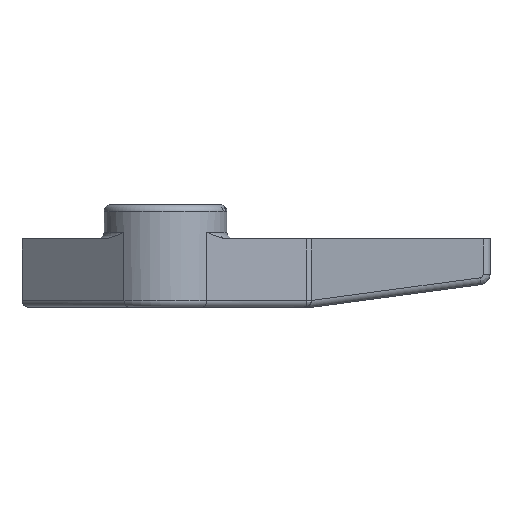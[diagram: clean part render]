
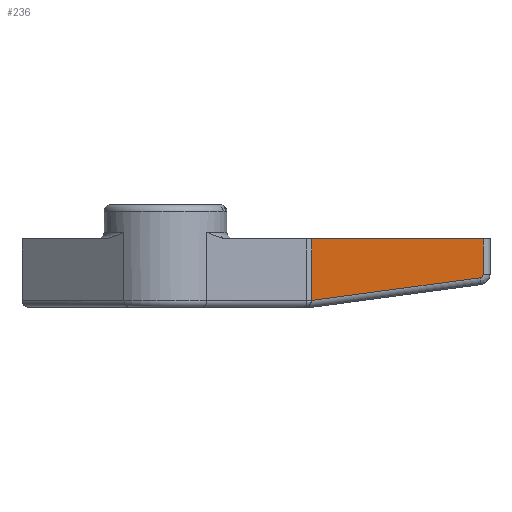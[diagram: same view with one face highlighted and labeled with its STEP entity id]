
A CAD part, left-side view. The second image highlights one B-rep face of the part: STEP entity #236.
In plain terms, the highlighted planar face has unit normal (-1, 0, 0).
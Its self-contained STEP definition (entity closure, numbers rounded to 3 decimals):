
#236=ADVANCED_FACE('',(#609),#610,.F.);
#609=FACE_OUTER_BOUND('',#1202,.T.);
#610=PLANE('',#1203);
#1202=EDGE_LOOP('',(#2573,#2574,#2575,#2576,#2577,#2578));
#1203=AXIS2_PLACEMENT_3D('',#2579,#2580,#2581);
#2573=ORIENTED_EDGE('',*,*,#3925,.T.);
#2574=ORIENTED_EDGE('',*,*,#3926,.T.);
#2575=ORIENTED_EDGE('',*,*,#3927,.F.);
#2576=ORIENTED_EDGE('',*,*,#3819,.F.);
#2577=ORIENTED_EDGE('',*,*,#3928,.F.);
#2578=ORIENTED_EDGE('',*,*,#3929,.T.);
#2579=CARTESIAN_POINT('',(0.,-137.0,-20.));
#2580=DIRECTION('',(1.0,0.0,0.0));
#2581=DIRECTION('',(0.0,0.0,-1.0));
#3819=EDGE_CURVE('',#4393,#4395,#4396,.T.);
#3925=EDGE_CURVE('',#4576,#4577,#4578,.F.);
#3926=EDGE_CURVE('',#4577,#4579,#4580,.T.);
#3927=EDGE_CURVE('',#4395,#4579,#4581,.T.);
#3928=EDGE_CURVE('',#4582,#4393,#4583,.T.);
#3929=EDGE_CURVE('',#4582,#4576,#4584,.T.);
#4393=VERTEX_POINT('',#5242);
#4395=VERTEX_POINT('',#5244);
#4396=CIRCLE('',#5245,1.0);
#4576=VERTEX_POINT('',#5516);
#4577=VERTEX_POINT('',#5517);
#4578=LINE('',#5518,#5519);
#4579=VERTEX_POINT('',#5520);
#4580=ELLIPSE('',#5521,5.929,4.0);
#4581=LINE('',#5522,#5523);
#4582=VERTEX_POINT('',#5524);
#4583=LINE('',#5525,#5526);
#4584=LINE('',#5527,#5528);
#5242=CARTESIAN_POINT('',(0.,-135.0,-10.377));
#5244=CARTESIAN_POINT('',(0.,-134.133,-11.368));
#5245=AXIS2_PLACEMENT_3D('',#6629,#6630,#6631);
#5516=CARTESIAN_POINT('',(0.,-84.776,0.));
#5517=CARTESIAN_POINT('',(0.,-84.776,-18.));
#5518=CARTESIAN_POINT('',(0.,-84.776,-18.));
#5519=VECTOR('',#6755,1.0);
#5520=CARTESIAN_POINT('',(0.,-84.776,-18.012));
#5521=AXIS2_PLACEMENT_3D('',#6756,#6757,#6758);
#5522=CARTESIAN_POINT('',(0.,-136.27,-11.08));
#5523=VECTOR('',#6759,1.0);
#5524=CARTESIAN_POINT('',(0.,-135.0,0.));
#5525=CARTESIAN_POINT('',(0.,-135.0,-20.));
#5526=VECTOR('',#6760,1.0);
#5527=CARTESIAN_POINT('',(0.,-137.0,0.));
#5528=VECTOR('',#6761,1.0);
#6629=CARTESIAN_POINT('',(0.,-134.0,-10.377));
#6630=DIRECTION('',(1.0,0.0,0.0));
#6631=DIRECTION('',(0.0,-0.753,-0.658));
#6755=DIRECTION('',(0.0,0.0,1.0));
#6756=CARTESIAN_POINT('',(0.,-78.847,-18.));
#6757=DIRECTION('',(1.0,0.0,0.0));
#6758=DIRECTION('',(0.0,-1.0,0.0));
#6759=DIRECTION('',(0.0,0.991,-0.133));
#6760=DIRECTION('',(0.0,0.0,-1.0));
#6761=DIRECTION('',(0.0,1.0,0.0));
